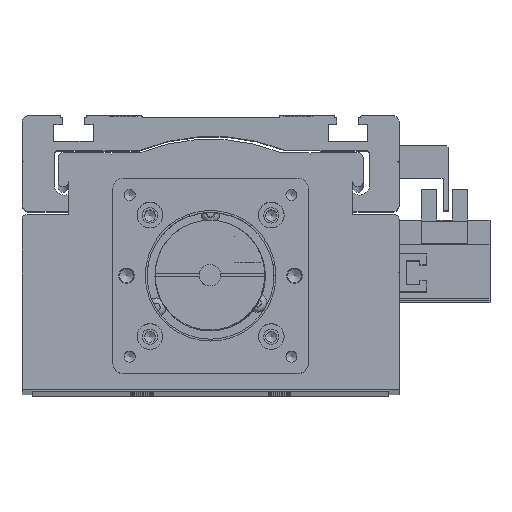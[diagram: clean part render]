
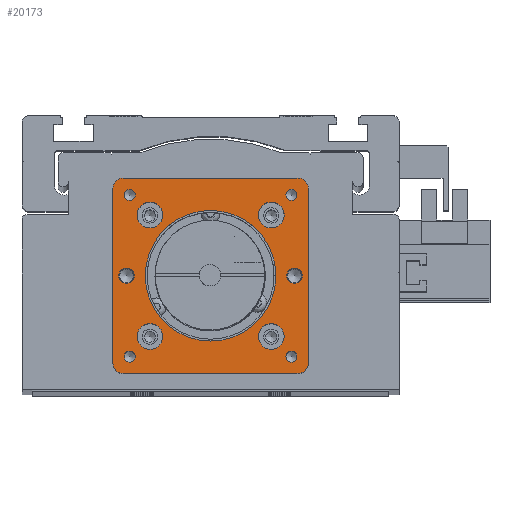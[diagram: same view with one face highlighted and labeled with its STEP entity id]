
A CAD part, top view. The second image highlights one B-rep face of the part: STEP entity #20173.
In plain terms, the highlighted planar face has unit normal (0, 0, 1).
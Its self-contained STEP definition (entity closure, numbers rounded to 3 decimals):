
#19937=CARTESIAN_POINT('',(54.0,57.0,0.0));
#19938=VERTEX_POINT('',#19937);
#19945=CARTESIAN_POINT('',(57.0,54.0,0.0));
#19946=VERTEX_POINT('',#19945);
#19947=CARTESIAN_POINT('',(54.0,54.0,0.0));
#19948=DIRECTION('',(0.0,0.0,-1.));
#19949=DIRECTION('',(0.707,0.707,0.0));
#19950=AXIS2_PLACEMENT_3D('',#19947,#19948,#19949);
#19951=CIRCLE('',#19950,3.);
#19952=EDGE_CURVE('',#19938,#19946,#19951,.T.);
#19969=CARTESIAN_POINT('',(57.0,3.,0.0));
#19970=VERTEX_POINT('',#19969);
#19971=CARTESIAN_POINT('',(57.0,3.,0.0));
#19972=DIRECTION('',(0.0,1.0,0.0));
#19973=VECTOR('',#19972,51.0);
#19974=LINE('',#19971,#19973);
#19975=EDGE_CURVE('',#19970,#19946,#19974,.T.);
#19994=CARTESIAN_POINT('',(28.5,28.5,0.0));
#19995=DIRECTION('',(0.0,0.0,1.0));
#19996=DIRECTION('',(1.0,0.0,0.0));
#19997=AXIS2_PLACEMENT_3D('',#19994,#19995,#19996);
#19998=PLANE('',#19997);
#19999=ORIENTED_EDGE('',*,*,#19952,.F.);
#20000=CARTESIAN_POINT('',(3.,57.0,0.0));
#20001=VERTEX_POINT('',#20000);
#20002=CARTESIAN_POINT('',(54.0,57.0,0.0));
#20003=DIRECTION('',(-1.0,0.0,0.0));
#20004=VECTOR('',#20003,51.0);
#20005=LINE('',#20002,#20004);
#20006=EDGE_CURVE('',#19938,#20001,#20005,.T.);
#20007=ORIENTED_EDGE('',*,*,#20006,.T.);
#20008=CARTESIAN_POINT('',(0.0,54.0,0.0));
#20009=VERTEX_POINT('',#20008);
#20010=CARTESIAN_POINT('',(3.,54.0,0.0));
#20011=DIRECTION('',(0.0,0.0,-1.0));
#20012=DIRECTION('',(-0.707,0.707,0.0));
#20013=AXIS2_PLACEMENT_3D('',#20010,#20011,#20012);
#20014=CIRCLE('',#20013,3.0);
#20015=EDGE_CURVE('',#20009,#20001,#20014,.T.);
#20016=ORIENTED_EDGE('',*,*,#20015,.F.);
#20017=CARTESIAN_POINT('',(0.0,3.,0.0));
#20018=VERTEX_POINT('',#20017);
#20019=CARTESIAN_POINT('',(0.0,54.0,0.0));
#20020=DIRECTION('',(0.0,-1.0,0.0));
#20021=VECTOR('',#20020,51.0);
#20022=LINE('',#20019,#20021);
#20023=EDGE_CURVE('',#20009,#20018,#20022,.T.);
#20024=ORIENTED_EDGE('',*,*,#20023,.T.);
#20025=CARTESIAN_POINT('',(3.,0.0,0.0));
#20026=VERTEX_POINT('',#20025);
#20027=CARTESIAN_POINT('',(3.,3.,0.0));
#20028=DIRECTION('',(0.0,0.0,-1.));
#20029=DIRECTION('',(-0.707,-0.707,0.0));
#20030=AXIS2_PLACEMENT_3D('',#20027,#20028,#20029);
#20031=CIRCLE('',#20030,3.);
#20032=EDGE_CURVE('',#20026,#20018,#20031,.T.);
#20033=ORIENTED_EDGE('',*,*,#20032,.F.);
#20034=CARTESIAN_POINT('',(54.0,0.0,0.0));
#20035=VERTEX_POINT('',#20034);
#20036=CARTESIAN_POINT('',(3.,0.0,0.0));
#20037=DIRECTION('',(1.0,0.0,0.0));
#20038=VECTOR('',#20037,51.0);
#20039=LINE('',#20036,#20038);
#20040=EDGE_CURVE('',#20026,#20035,#20039,.T.);
#20041=ORIENTED_EDGE('',*,*,#20040,.T.);
#20042=CARTESIAN_POINT('',(54.0,3.,0.0));
#20043=DIRECTION('',(0.0,0.0,-1.));
#20044=DIRECTION('',(0.707,-0.707,0.0));
#20045=AXIS2_PLACEMENT_3D('',#20042,#20043,#20044);
#20046=CIRCLE('',#20045,3.);
#20047=EDGE_CURVE('',#19970,#20035,#20046,.T.);
#20048=ORIENTED_EDGE('',*,*,#20047,.F.);
#20049=ORIENTED_EDGE('',*,*,#19975,.T.);
#20050=EDGE_LOOP('',(#19999,#20007,#20016,#20024,#20033,#20041,#20048,#20049));
#20051=FACE_OUTER_BOUND('',#20050,.T.);
#20052=CARTESIAN_POINT('',(6.25,28.5,0.0));
#20053=VERTEX_POINT('',#20052);
#20054=CARTESIAN_POINT('',(4.,28.5,0.0));
#20055=DIRECTION('',(0.0,0.0,-1.0));
#20056=DIRECTION('',(1.0,0.0,0.0));
#20057=AXIS2_PLACEMENT_3D('',#20054,#20055,#20056);
#20058=CIRCLE('',#20057,2.25);
#20059=EDGE_CURVE('',#20053,#20053,#20058,.T.);
#20060=ORIENTED_EDGE('',*,*,#20059,.T.);
#20061=EDGE_LOOP('',(#20060));
#20062=FACE_BOUND('',#20061,.T.);
#20063=CARTESIAN_POINT('',(55.25,28.5,0.0));
#20064=VERTEX_POINT('',#20063);
#20065=CARTESIAN_POINT('',(53.,28.5,0.0));
#20066=DIRECTION('',(0.0,0.0,-1.0));
#20067=DIRECTION('',(1.0,0.0,0.0));
#20068=AXIS2_PLACEMENT_3D('',#20065,#20066,#20067);
#20069=CIRCLE('',#20068,2.25);
#20070=EDGE_CURVE('',#20064,#20064,#20069,.T.);
#20071=ORIENTED_EDGE('',*,*,#20070,.T.);
#20072=EDGE_LOOP('',(#20071));
#20073=FACE_BOUND('',#20072,.T.);
#20074=CARTESIAN_POINT('',(6.546,4.925,0.0));
#20075=VERTEX_POINT('',#20074);
#20076=CARTESIAN_POINT('',(4.925,4.925,0.0));
#20077=DIRECTION('',(0.0,0.0,-1.0));
#20078=DIRECTION('',(1.0,0.0,0.0));
#20079=AXIS2_PLACEMENT_3D('',#20076,#20077,#20078);
#20080=CIRCLE('',#20079,1.621);
#20081=EDGE_CURVE('',#20075,#20075,#20080,.T.);
#20082=ORIENTED_EDGE('',*,*,#20081,.T.);
#20083=EDGE_LOOP('',(#20082));
#20084=FACE_BOUND('',#20083,.T.);
#20085=CARTESIAN_POINT('',(53.696,52.075,0.0));
#20086=VERTEX_POINT('',#20085);
#20087=CARTESIAN_POINT('',(52.075,52.075,0.0));
#20088=DIRECTION('',(0.0,0.0,-1.0));
#20089=DIRECTION('',(1.0,0.0,0.0));
#20090=AXIS2_PLACEMENT_3D('',#20087,#20088,#20089);
#20091=CIRCLE('',#20090,1.621);
#20092=EDGE_CURVE('',#20086,#20086,#20091,.T.);
#20093=ORIENTED_EDGE('',*,*,#20092,.T.);
#20094=EDGE_LOOP('',(#20093));
#20095=FACE_BOUND('',#20094,.T.);
#20096=CARTESIAN_POINT('',(6.546,52.075,0.0));
#20097=VERTEX_POINT('',#20096);
#20098=CARTESIAN_POINT('',(4.925,52.075,0.0));
#20099=DIRECTION('',(0.0,0.0,-1.0));
#20100=DIRECTION('',(1.0,0.0,0.0));
#20101=AXIS2_PLACEMENT_3D('',#20098,#20099,#20100);
#20102=CIRCLE('',#20101,1.621);
#20103=EDGE_CURVE('',#20097,#20097,#20102,.T.);
#20104=ORIENTED_EDGE('',*,*,#20103,.T.);
#20105=EDGE_LOOP('',(#20104));
#20106=FACE_BOUND('',#20105,.T.);
#20107=CARTESIAN_POINT('',(53.696,4.925,0.0));
#20108=VERTEX_POINT('',#20107);
#20109=CARTESIAN_POINT('',(52.075,4.925,0.0));
#20110=DIRECTION('',(0.0,0.0,-1.0));
#20111=DIRECTION('',(1.0,0.0,0.0));
#20112=AXIS2_PLACEMENT_3D('',#20109,#20110,#20111);
#20113=CIRCLE('',#20112,1.621);
#20114=EDGE_CURVE('',#20108,#20108,#20113,.T.);
#20115=ORIENTED_EDGE('',*,*,#20114,.T.);
#20116=EDGE_LOOP('',(#20115));
#20117=FACE_BOUND('',#20116,.T.);
#20118=CARTESIAN_POINT('',(49.95,10.8,0.0));
#20119=VERTEX_POINT('',#20118);
#20120=CARTESIAN_POINT('',(46.2,10.8,0.0));
#20121=DIRECTION('',(0.0,0.0,-1.0));
#20122=DIRECTION('',(1.0,0.0,0.0));
#20123=AXIS2_PLACEMENT_3D('',#20120,#20121,#20122);
#20124=CIRCLE('',#20123,3.75);
#20125=EDGE_CURVE('',#20119,#20119,#20124,.T.);
#20126=ORIENTED_EDGE('',*,*,#20125,.T.);
#20127=EDGE_LOOP('',(#20126));
#20128=FACE_BOUND('',#20127,.T.);
#20129=CARTESIAN_POINT('',(14.55,46.2,0.0));
#20130=VERTEX_POINT('',#20129);
#20131=CARTESIAN_POINT('',(10.8,46.2,0.0));
#20132=DIRECTION('',(0.0,0.0,-1.0));
#20133=DIRECTION('',(1.0,0.0,0.0));
#20134=AXIS2_PLACEMENT_3D('',#20131,#20132,#20133);
#20135=CIRCLE('',#20134,3.75);
#20136=EDGE_CURVE('',#20130,#20130,#20135,.T.);
#20137=ORIENTED_EDGE('',*,*,#20136,.T.);
#20138=EDGE_LOOP('',(#20137));
#20139=FACE_BOUND('',#20138,.T.);
#20140=CARTESIAN_POINT('',(49.95,46.2,0.0));
#20141=VERTEX_POINT('',#20140);
#20142=CARTESIAN_POINT('',(46.2,46.2,0.0));
#20143=DIRECTION('',(0.0,0.0,-1.0));
#20144=DIRECTION('',(1.0,0.0,0.0));
#20145=AXIS2_PLACEMENT_3D('',#20142,#20143,#20144);
#20146=CIRCLE('',#20145,3.75);
#20147=EDGE_CURVE('',#20141,#20141,#20146,.T.);
#20148=ORIENTED_EDGE('',*,*,#20147,.T.);
#20149=EDGE_LOOP('',(#20148));
#20150=FACE_BOUND('',#20149,.T.);
#20151=CARTESIAN_POINT('',(14.55,10.8,0.0));
#20152=VERTEX_POINT('',#20151);
#20153=CARTESIAN_POINT('',(10.8,10.8,0.0));
#20154=DIRECTION('',(0.0,0.0,-1.0));
#20155=DIRECTION('',(1.0,0.0,0.0));
#20156=AXIS2_PLACEMENT_3D('',#20153,#20154,#20155);
#20157=CIRCLE('',#20156,3.75);
#20158=EDGE_CURVE('',#20152,#20152,#20157,.T.);
#20159=ORIENTED_EDGE('',*,*,#20158,.T.);
#20160=EDGE_LOOP('',(#20159));
#20161=FACE_BOUND('',#20160,.T.);
#20162=CARTESIAN_POINT('',(47.55,28.5,0.0));
#20163=VERTEX_POINT('',#20162);
#20164=CARTESIAN_POINT('',(28.5,28.5,0.0));
#20165=DIRECTION('',(0.0,0.0,-1.0));
#20166=DIRECTION('',(-1.0,0.0,0.0));
#20167=AXIS2_PLACEMENT_3D('',#20164,#20165,#20166);
#20168=CIRCLE('',#20167,19.05);
#20169=EDGE_CURVE('',#20163,#20163,#20168,.T.);
#20170=ORIENTED_EDGE('',*,*,#20169,.T.);
#20171=EDGE_LOOP('',(#20170));
#20172=FACE_BOUND('',#20171,.T.);
#20173=ADVANCED_FACE('',(#20051,#20062,#20073,#20084,#20095,#20106,#20117,#20128,#20139,#20150,#20161,#20172),#19998,.T.);
